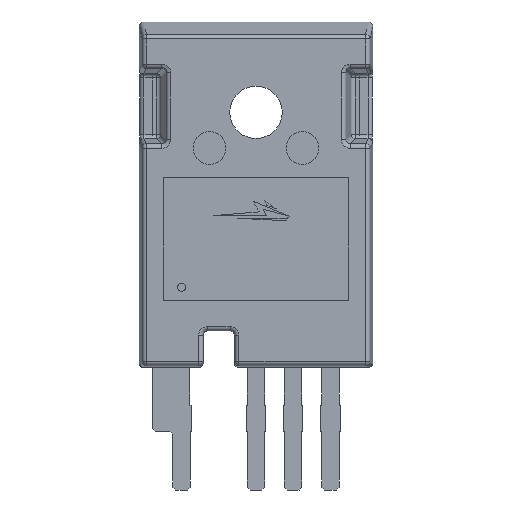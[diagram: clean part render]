
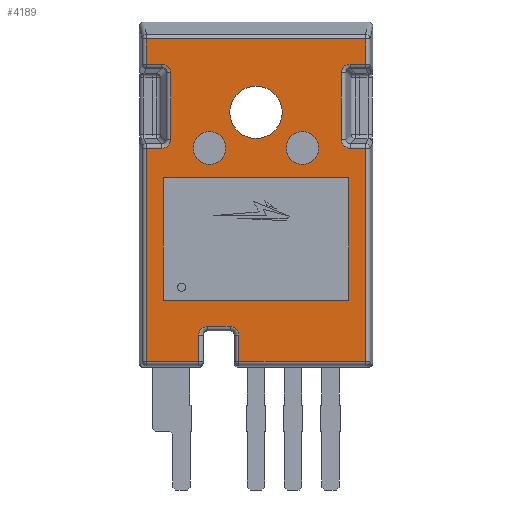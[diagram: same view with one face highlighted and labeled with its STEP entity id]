
A CAD part, left-side view. The second image highlights one B-rep face of the part: STEP entity #4189.
In plain terms, the highlighted planar face has unit normal (-1, 0, 0).
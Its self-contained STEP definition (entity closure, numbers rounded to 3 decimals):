
#117=ELLIPSE('',#4466,0.612,0.6);
#119=ELLIPSE('',#4471,0.612,0.6);
#121=ELLIPSE('',#4496,0.612,0.6);
#123=ELLIPSE('',#4501,0.612,0.6);
#193=PLANE('',#4562);
#393=LINE('',#6203,#818);
#395=LINE('',#6211,#820);
#398=LINE('',#6250,#823);
#400=LINE('',#6286,#825);
#401=LINE('',#6293,#826);
#403=LINE('',#6303,#828);
#405=LINE('',#6313,#830);
#407=LINE('',#6323,#832);
#410=LINE('',#6362,#835);
#412=LINE('',#6398,#837);
#413=LINE('',#6405,#838);
#415=LINE('',#6415,#840);
#417=LINE('',#6425,#842);
#419=LINE('',#6435,#844);
#421=LINE('',#6447,#846);
#422=LINE('',#6453,#847);
#445=LINE('',#6530,#870);
#446=LINE('',#6532,#871);
#447=LINE('',#6534,#872);
#448=LINE('',#6535,#873);
#818=VECTOR('',#4957,14.561);
#820=VECTOR('',#4965,1.048);
#823=VECTOR('',#4980,4.562);
#825=VECTOR('',#4992,1.048);
#826=VECTOR('',#5001,1.709);
#828=VECTOR('',#5013,14.963);
#830=VECTOR('',#5025,1.709);
#832=VECTOR('',#5037,1.048);
#835=VECTOR('',#5052,4.562);
#837=VECTOR('',#5064,1.048);
#838=VECTOR('',#5073,14.561);
#840=VECTOR('',#5085,8.652);
#842=VECTOR('',#5099,1.781);
#844=VECTOR('',#5111,1.539);
#846=VECTOR('',#5125,1.781);
#847=VECTOR('',#5134,3.572);
#870=VECTOR('',#5217,12.7);
#871=VECTOR('',#5218,8.38);
#872=VECTOR('',#5219,12.7);
#873=VECTOR('',#5220,8.38);
#1211=FACE_BOUND('',#1563,.T.);
#1212=FACE_BOUND('',#1564,.T.);
#1213=FACE_BOUND('',#1565,.T.);
#1214=FACE_BOUND('',#1566,.T.);
#1295=FACE_OUTER_BOUND('',#1562,.T.);
#1562=EDGE_LOOP('',(#3144,#3145,#3146,#3147,#3148,#3149,#3150,#3151,#3152,
#3153,#3154,#3155,#3156,#3157,#3158,#3159,#3160,#3161,#3162,#3163,#3164,
#3165));
#1563=EDGE_LOOP('',(#3166));
#1564=EDGE_LOOP('',(#3167));
#1565=EDGE_LOOP('',(#3168,#3169,#3170,#3171));
#1566=EDGE_LOOP('',(#3172));
#1768=CIRCLE('',#4400,1.79);
#1830=CIRCLE('',#4521,0.6);
#1834=CIRCLE('',#4527,0.6);
#1844=CIRCLE('',#4563,1.117);
#1845=CIRCLE('',#4564,1.117);
#1874=VERTEX_POINT('',#6026);
#1921=VERTEX_POINT('',#6200);
#1922=VERTEX_POINT('',#6202);
#1925=VERTEX_POINT('',#6210);
#1927=VERTEX_POINT('',#6240);
#1929=VERTEX_POINT('',#6246);
#1931=VERTEX_POINT('',#6276);
#1933=VERTEX_POINT('',#6282);
#1936=VERTEX_POINT('',#6292);
#1939=VERTEX_POINT('',#6302);
#1942=VERTEX_POINT('',#6312);
#1945=VERTEX_POINT('',#6322);
#1947=VERTEX_POINT('',#6352);
#1949=VERTEX_POINT('',#6358);
#1951=VERTEX_POINT('',#6388);
#1953=VERTEX_POINT('',#6394);
#1956=VERTEX_POINT('',#6404);
#1959=VERTEX_POINT('',#6414);
#1961=VERTEX_POINT('',#6422);
#1962=VERTEX_POINT('',#6427);
#1963=VERTEX_POINT('',#6431);
#1965=VERTEX_POINT('',#6437);
#1967=VERTEX_POINT('',#6443);
#1987=VERTEX_POINT('',#6526);
#1988=VERTEX_POINT('',#6528);
#1989=VERTEX_POINT('',#6529);
#1990=VERTEX_POINT('',#6531);
#1991=VERTEX_POINT('',#6533);
#1992=VERTEX_POINT('',#6536);
#2250=EDGE_CURVE('',#1874,#1874,#1768,.T.);
#2321=EDGE_CURVE('',#1921,#1922,#393,.T.);
#2325=EDGE_CURVE('',#1922,#1925,#395,.T.);
#2330=EDGE_CURVE('',#1925,#1927,#117,.T.);
#2333=EDGE_CURVE('',#1927,#1929,#398,.T.);
#2336=EDGE_CURVE('',#1929,#1931,#119,.T.);
#2339=EDGE_CURVE('',#1931,#1933,#400,.T.);
#2342=EDGE_CURVE('',#1933,#1936,#401,.T.);
#2347=EDGE_CURVE('',#1936,#1939,#403,.T.);
#2352=EDGE_CURVE('',#1939,#1942,#405,.T.);
#2357=EDGE_CURVE('',#1942,#1945,#407,.T.);
#2362=EDGE_CURVE('',#1945,#1947,#121,.T.);
#2365=EDGE_CURVE('',#1947,#1949,#410,.T.);
#2368=EDGE_CURVE('',#1949,#1951,#123,.T.);
#2371=EDGE_CURVE('',#1951,#1953,#412,.T.);
#2374=EDGE_CURVE('',#1953,#1956,#413,.T.);
#2379=EDGE_CURVE('',#1956,#1959,#415,.T.);
#2385=EDGE_CURVE('',#1959,#1961,#417,.T.);
#2387=EDGE_CURVE('',#1961,#1962,#1830,.T.);
#2390=EDGE_CURVE('',#1962,#1963,#419,.T.);
#2393=EDGE_CURVE('',#1963,#1965,#1834,.T.);
#2396=EDGE_CURVE('',#1965,#1967,#421,.T.);
#2399=EDGE_CURVE('',#1967,#1921,#422,.T.);
#2435=EDGE_CURVE('',#1987,#1987,#1844,.T.);
#2436=EDGE_CURVE('',#1988,#1989,#445,.T.);
#2437=EDGE_CURVE('',#1989,#1990,#446,.T.);
#2438=EDGE_CURVE('',#1990,#1991,#447,.T.);
#2439=EDGE_CURVE('',#1991,#1988,#448,.T.);
#2440=EDGE_CURVE('',#1992,#1992,#1845,.T.);
#3144=ORIENTED_EDGE('',*,*,#2321,.F.);
#3145=ORIENTED_EDGE('',*,*,#2399,.F.);
#3146=ORIENTED_EDGE('',*,*,#2396,.F.);
#3147=ORIENTED_EDGE('',*,*,#2393,.F.);
#3148=ORIENTED_EDGE('',*,*,#2390,.F.);
#3149=ORIENTED_EDGE('',*,*,#2387,.F.);
#3150=ORIENTED_EDGE('',*,*,#2385,.F.);
#3151=ORIENTED_EDGE('',*,*,#2379,.F.);
#3152=ORIENTED_EDGE('',*,*,#2374,.F.);
#3153=ORIENTED_EDGE('',*,*,#2371,.F.);
#3154=ORIENTED_EDGE('',*,*,#2368,.F.);
#3155=ORIENTED_EDGE('',*,*,#2365,.F.);
#3156=ORIENTED_EDGE('',*,*,#2362,.F.);
#3157=ORIENTED_EDGE('',*,*,#2357,.F.);
#3158=ORIENTED_EDGE('',*,*,#2352,.F.);
#3159=ORIENTED_EDGE('',*,*,#2347,.F.);
#3160=ORIENTED_EDGE('',*,*,#2342,.F.);
#3161=ORIENTED_EDGE('',*,*,#2339,.F.);
#3162=ORIENTED_EDGE('',*,*,#2336,.F.);
#3163=ORIENTED_EDGE('',*,*,#2333,.F.);
#3164=ORIENTED_EDGE('',*,*,#2330,.F.);
#3165=ORIENTED_EDGE('',*,*,#2325,.F.);
#3166=ORIENTED_EDGE('',*,*,#2250,.T.);
#3167=ORIENTED_EDGE('',*,*,#2435,.T.);
#3168=ORIENTED_EDGE('',*,*,#2436,.T.);
#3169=ORIENTED_EDGE('',*,*,#2437,.T.);
#3170=ORIENTED_EDGE('',*,*,#2438,.T.);
#3171=ORIENTED_EDGE('',*,*,#2439,.T.);
#3172=ORIENTED_EDGE('',*,*,#2440,.T.);
#4189=ADVANCED_FACE('',(#1295,#1211,#1212,#1213,#1214),#193,.T.);
#4400=AXIS2_PLACEMENT_3D('',#6027,#4803,#4804);
#4466=AXIS2_PLACEMENT_3D('',#6244,#4973,#4974);
#4471=AXIS2_PLACEMENT_3D('',#6280,#4985,#4986);
#4496=AXIS2_PLACEMENT_3D('',#6356,#5045,#5046);
#4501=AXIS2_PLACEMENT_3D('',#6392,#5057,#5058);
#4521=AXIS2_PLACEMENT_3D('',#6429,#5104,#5105);
#4527=AXIS2_PLACEMENT_3D('',#6441,#5118,#5119);
#4562=AXIS2_PLACEMENT_3D('',#6525,#5213,#5214);
#4563=AXIS2_PLACEMENT_3D('',#6527,#5215,#5216);
#4564=AXIS2_PLACEMENT_3D('',#6537,#5221,#5222);
#4803=DIRECTION('center_axis',(1.,0.,0.));
#4804=DIRECTION('ref_axis',(0.,0.,-1.));
#4957=DIRECTION('',(0.,0.,1.));
#4965=DIRECTION('',(0.,-1.,0.));
#4973=DIRECTION('center_axis',(-1.,0.,0.));
#4974=DIRECTION('ref_axis',(0.,-0.707,-0.707));
#4980=DIRECTION('',(0.,0.,1.));
#4985=DIRECTION('center_axis',(-1.,0.,0.));
#4986=DIRECTION('ref_axis',(0.,-0.707,0.707));
#4992=DIRECTION('',(0.,1.,0.));
#5001=DIRECTION('',(0.,0.,1.));
#5013=DIRECTION('',(0.,-1.,0.));
#5025=DIRECTION('',(0.,0.,-1.));
#5037=DIRECTION('',(0.,1.,0.));
#5045=DIRECTION('center_axis',(-1.,0.,0.));
#5046=DIRECTION('ref_axis',(0.,0.707,0.707));
#5052=DIRECTION('',(0.,0.,-1.));
#5057=DIRECTION('center_axis',(-1.,0.,0.));
#5058=DIRECTION('ref_axis',(0.,0.707,-0.707));
#5064=DIRECTION('',(0.,-1.,0.));
#5073=DIRECTION('',(0.,0.,-1.));
#5085=DIRECTION('',(0.,1.,0.));
#5099=DIRECTION('',(0.,0.,1.));
#5104=DIRECTION('center_axis',(-1.,0.,0.));
#5105=DIRECTION('ref_axis',(0.,-0.707,0.707));
#5111=DIRECTION('',(0.,1.,0.));
#5118=DIRECTION('center_axis',(-1.,0.,0.));
#5119=DIRECTION('ref_axis',(0.,0.707,0.707));
#5125=DIRECTION('',(0.,0.,-1.));
#5134=DIRECTION('',(0.,1.,0.));
#5213=DIRECTION('center_axis',(-1.,0.,0.));
#5214=DIRECTION('ref_axis',(0.,-1.,0.));
#5215=DIRECTION('center_axis',(1.,0.,0.));
#5216=DIRECTION('ref_axis',(0.,0.,-1.));
#5217=DIRECTION('',(0.,-1.,0.));
#5218=DIRECTION('',(0.,0.,-1.));
#5219=DIRECTION('',(0.,1.,0.));
#5220=DIRECTION('',(0.,0.,1.));
#5221=DIRECTION('center_axis',(1.,0.,0.));
#5222=DIRECTION('ref_axis',(0.,0.,-1.));
#6026=CARTESIAN_POINT('',(-2.51,0.,23.59));
#6027=CARTESIAN_POINT('Origin',(-2.51,0.,21.8));
#6200=CARTESIAN_POINT('',(-2.51,7.482,4.789));
#6202=CARTESIAN_POINT('',(-2.51,7.482,19.35));
#6203=CARTESIAN_POINT('',(-2.51,7.482,0.));
#6210=CARTESIAN_POINT('',(-2.51,6.434,19.35));
#6211=CARTESIAN_POINT('',(-2.51,7.608,19.35));
#6240=CARTESIAN_POINT('',(-2.51,5.84,19.944));
#6244=CARTESIAN_POINT('Origin',(-2.51,6.446,19.956));
#6246=CARTESIAN_POINT('',(-2.51,5.84,24.506));
#6250=CARTESIAN_POINT('',(-2.51,5.84,6.105));
#6276=CARTESIAN_POINT('',(-2.51,6.434,25.1));
#6280=CARTESIAN_POINT('Origin',(-2.51,6.446,24.494));
#6282=CARTESIAN_POINT('',(-2.51,7.482,25.1));
#6286=CARTESIAN_POINT('',(-2.51,8.333,25.1));
#6292=CARTESIAN_POINT('',(-2.51,7.482,26.809));
#6293=CARTESIAN_POINT('',(-2.51,7.482,0.));
#6302=CARTESIAN_POINT('',(-2.51,-7.482,26.809));
#6303=CARTESIAN_POINT('',(-2.51,5.978,26.809));
#6312=CARTESIAN_POINT('',(-2.51,-7.482,25.1));
#6313=CARTESIAN_POINT('',(-2.51,-7.482,0.));
#6322=CARTESIAN_POINT('',(-2.51,-6.434,25.1));
#6323=CARTESIAN_POINT('',(-2.51,4.348,25.1));
#6352=CARTESIAN_POINT('',(-2.51,-5.84,24.506));
#6356=CARTESIAN_POINT('Origin',(-2.51,-6.446,24.494));
#6358=CARTESIAN_POINT('',(-2.51,-5.84,19.944));
#6362=CARTESIAN_POINT('',(-2.51,-5.84,5.008));
#6388=CARTESIAN_POINT('',(-2.51,-6.434,19.35));
#6392=CARTESIAN_POINT('Origin',(-2.51,-6.446,19.956));
#6394=CARTESIAN_POINT('',(-2.51,-7.482,19.35));
#6398=CARTESIAN_POINT('',(-2.51,3.623,19.35));
#6404=CARTESIAN_POINT('',(-2.51,-7.482,4.789));
#6405=CARTESIAN_POINT('',(-2.51,-7.482,0.));
#6414=CARTESIAN_POINT('',(-2.51,1.17,4.789));
#6415=CARTESIAN_POINT('',(-2.51,8.7,4.789));
#6422=CARTESIAN_POINT('',(-2.51,1.17,6.57));
#6425=CARTESIAN_POINT('',(-2.51,1.17,0.935));
#6427=CARTESIAN_POINT('',(-2.51,1.77,7.17));
#6429=CARTESIAN_POINT('Origin',(-2.51,1.77,6.57));
#6431=CARTESIAN_POINT('',(-2.51,3.31,7.17));
#6435=CARTESIAN_POINT('',(-2.51,4.72,7.17));
#6437=CARTESIAN_POINT('',(-2.51,3.91,6.57));
#6441=CARTESIAN_POINT('Origin',(-2.51,3.31,6.57));
#6443=CARTESIAN_POINT('',(-2.51,3.91,4.789));
#6447=CARTESIAN_POINT('',(-2.51,3.91,3.435));
#6453=CARTESIAN_POINT('',(-2.51,8.7,4.789));
#6525=CARTESIAN_POINT('Origin',(-2.51,7.97,0.));
#6526=CARTESIAN_POINT('',(-2.51,-3.175,20.483));
#6527=CARTESIAN_POINT('Origin',(-2.51,-3.175,19.366));
#6528=CARTESIAN_POINT('',(-2.51,6.35,17.339));
#6529=CARTESIAN_POINT('',(-2.51,-6.35,17.339));
#6530=CARTESIAN_POINT('',(-2.51,7.16,17.339));
#6531=CARTESIAN_POINT('',(-2.51,-6.35,8.959));
#6532=CARTESIAN_POINT('',(-2.51,-6.35,8.67));
#6533=CARTESIAN_POINT('',(-2.51,6.35,8.959));
#6534=CARTESIAN_POINT('',(-2.51,0.81,8.959));
#6535=CARTESIAN_POINT('',(-2.51,6.35,4.48));
#6536=CARTESIAN_POINT('',(-2.51,3.175,20.483));
#6537=CARTESIAN_POINT('Origin',(-2.51,3.175,19.366));
